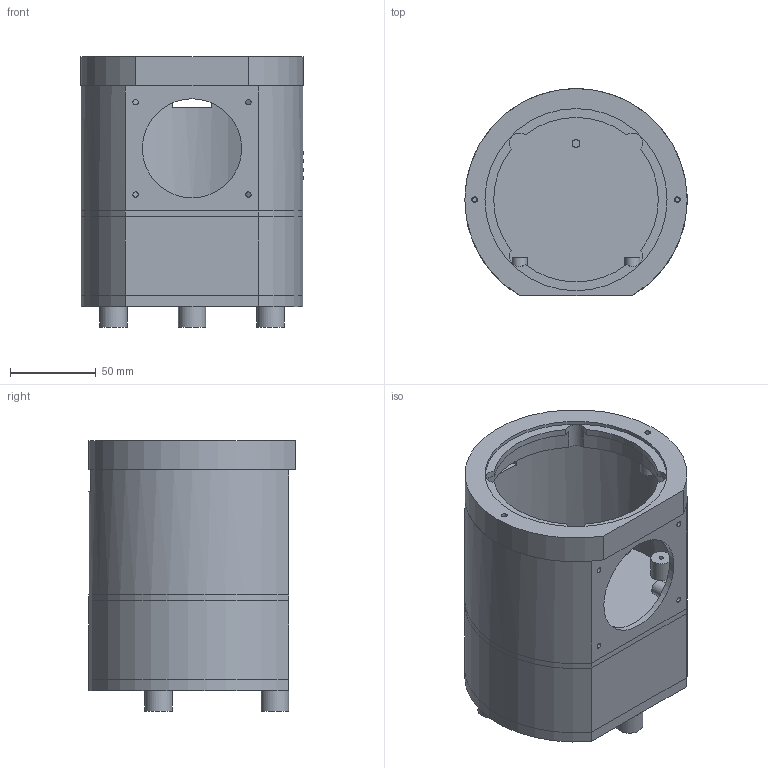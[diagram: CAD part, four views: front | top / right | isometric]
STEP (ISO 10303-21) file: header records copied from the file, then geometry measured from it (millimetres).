
FILE_DESCRIPTION(('Open CASCADE Model'),'2;1');
FILE_NAME('Open CASCADE Shape Model','2026-10-20T19:06:13',('Author'),( 'Open CASCADE'),'Open CASCADE STEP processor 7.9','Open CASCADE 7.9' ,'Unknown');
FILE_SCHEMA(('AUTOMOTIVE_DESIGN { 1 0 10303 214 1 1 1 1 }'));
Length unit declared in the file: millimetre
Products named in the file (6): Open CASCADE STEP translator 7.9 9; Open CASCADE STEP translator 7.9 9.1; Open CASCADE STEP translator 7.9 9.2; Open CASCADE STEP translator 7.9 9.3; Open CASCADE STEP translator 7.9 9.4; Open CASCADE STEP translator 7.9 9.5
Assembly tree (5 placements, depth 2):
  Open CASCADE STEP translator 7.9 9
    Open CASCADE STEP translator 7.9 9.1
    Open CASCADE STEP translator 7.9 9.2
    Open CASCADE STEP translator 7.9 9.3
    Open CASCADE STEP translator 7.9 9.4
    Open CASCADE STEP translator 7.9 9.5
Bounding box: 130 x 121 x 158 mm (x, y, z)
Volume: 366797.8 mm3; surface area: 179407.8 mm2
Topology: 5 solids, 5 shells, 194 faces, 487 edges, 325 vertices
Faces by surface type: plane 102, cylinder 92
Full cylindrical faces by diameter (mm): 1.85 x4, 2.65 x14, 3.1 x4, 3.3 x18, 4.6 x1, 6 x4, 6.2 x4, 8.8 x4, 16 x3, 58 x1, 61 x1, 106.5 x1
Entity records: 12924 total; most frequent: CARTESIAN_POINT 3027, DIRECTION 1873, ORIENTED_EDGE 970, PCURVE 970, DEFINITIONAL_REPRESENTATION 970, LINE 915, VECTOR 915, EDGE_CURVE 485
